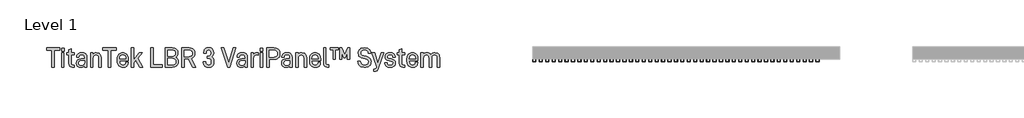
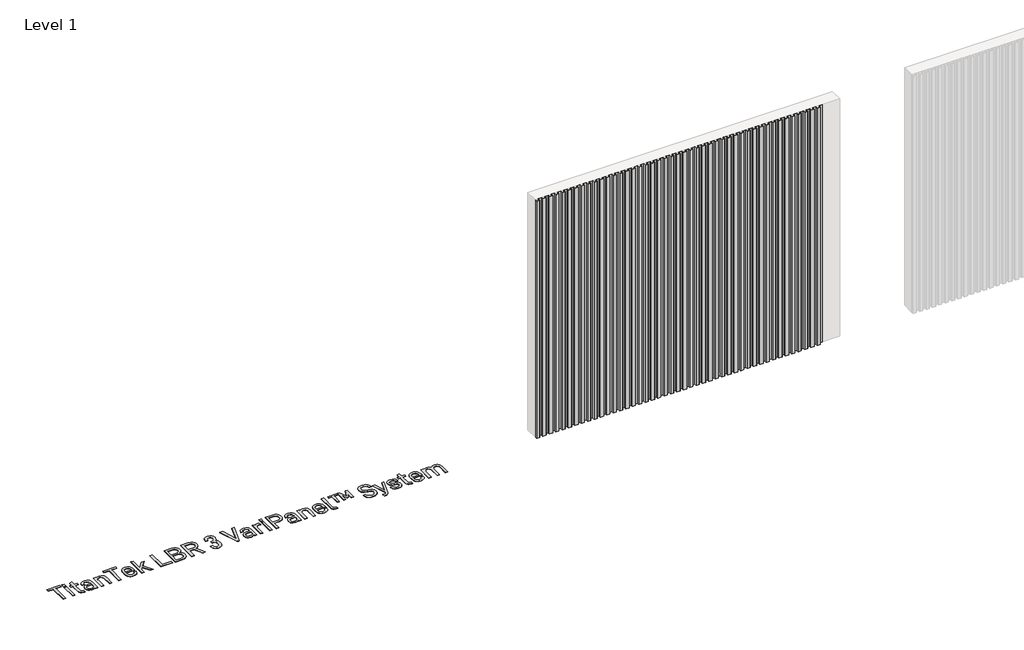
# One storey, part 26 of 33: 2 proxies.
"""IFC4 building model written with IfcOpenShell, lengths in millimetres."""

from ifc_helpers import new_model, si_unit, origin, origin_with_axes, place, context, project, spatial, polyline, outline, extrude, transform, mapped, element, save
from components import aluminum_slate_gray_25c6ed16

model = new_model("IFC4")

# Units and contexts
model_context = context("Model", 3, world=origin())
ifc_project = project(units=[si_unit("LENGTHUNIT", "METRE", prefix="MILLI")], contexts=[model_context])

# Site, building, storey
site = spatial("IfcSite", under=ifc_project)
building = spatial("IfcBuilding", under=site)
storey = spatial("IfcBuildingStorey", under=building, Name="Level 1", Elevation=0.0)

# Proxies
placement = place(None, origin())
element("IfcBuildingElementProxy", 1, Name="600mm Arial 2", ObjectType="600mm Arial 2", at=placement, inside=storey, context=model_context, shape_type="SweptSolid", body=[
    extrude(outline(polyline([(-9914.9924556, 92220.4128343), (-9914.9924556, 91952.9873502), (-9954.4439015, 91952.9873502), (-9954.4439015, 92220.4128343), (-10038.8787304, 92220.4128343), (-10038.8787304, 92257.3166776), (-9830.5576267, 92257.3166776), (-9830.5576267, 92220.4128343), (-9914.9924556, 92220.4128343)])), origin_with_axes(), (0.0, 0.0, 1.0), 5.0),
    extrude(outline(polyline([(-9763.1553408, 92253.0221475), (-9763.1553408, 92205.8551051), (-9802.6067867, 92205.8551051), (-9802.6067867, 92253.0221475), (-9763.1553408, 92253.0221475)])), origin_with_axes(), (0.0, 0.0, 1.0), 5.0),
    extrude(outline(polyline([(-9764.0288046, 92178.8505176), (-9764.0288046, 91952.9873502), (-9801.733323, 91952.9873502), (-9801.733323, 92178.8505176), (-9764.0288046, 92178.8505176)])), origin_with_axes(), (0.0, 0.0, 1.0), 5.0),
    extrude(outline(polyline([(-9648.294858, 92012.601251), (-9646.8208879, 92001.5191797), (-9642.3989777, 91993.6034145), (-9635.0291273, 91988.8539554), (-9624.7113368, 91987.2708023), (-9603.2386864, 91987.2708023), (-9603.2386864, 91952.9873502), (-9629.3698101, 91952.9873502), (-9653.1535001, 91956.9543314), (-9671.3688587, 91968.855275), (-9682.6692959, 91987.3981825), (-9686.4361083, 92011.2910554), (-9686.4361083, 92147.1146681), (-9720.2828285, 92147.1146681), (-9720.2828285, 92178.8505176), (-9686.4361083, 92178.8505176), (-9686.4361083, 92226.8910237), (-9648.294858, 92244.8698192), (-9648.294858, 92178.8505176), (-9599.3808881, 92178.8505176), (-9599.3808881, 92147.1146681), (-9648.294858, 92147.1146681), (-9648.294858, 92012.601251)])), origin_with_axes(), (0.0, 0.0, 1.0), 5.0),
    extrude(outline(polyline([(-9422.8684225, 92162.1091291), (-9413.2830677, 92151.3409589), (-9406.4363858, 92138.2526505), (-9400.9590402, 92105.1156196), (-9400.9590402, 91952.9873502), (-9438.2996154, 91952.9873502), (-9438.2996154, 91969.2920069), (-9456.7151427, 91956.8451485), (-9473.7476858, 91952.0410978), (-9493.9829293, 91950.4397476), (-9526.0281305, 91954.7160806), (-9550.1029751, 91967.5450794), (-9565.2248162, 91989.3270816), (-9570.2654299, 92018.5699199), (-9565.1338304, 92046.2114081), (-9549.7390318, 92067.4111012), (-9525.063681, 92080.6222403), (-9493.1094655, 92085.0259534), (-9438.7363472, 92085.0259534), (-9438.7363472, 92105.5523515), (-9441.6296959, 92124.441005), (-9450.3097419, 92138.1616647), (-9464.2305704, 92146.1866129), (-9483.7197302, 92148.8615956), (-9502.2262434, 92146.6051476), (-9515.819523, 92139.8358036), (-9524.1720201, 92129.4816187), (-9526.9561857, 92115.4516073), (-9526.9561857, 92109.8468816), (-9563.8600291, 92109.8468816), (-9563.8600291, 92116.2522824), (-9558.4008807, 92143.2932642), (-9542.0234354, 92164.2927885), (-9516.8203668, 92177.4493362), (-9484.1564621, 92181.8348521), (-9448.6719974, 92176.9034213), (-9434.5600987, 92170.7391329), (-9422.8684225, 92162.1091291)]), holes=[polyline([(-9450.6736851, 91994.5496669), (-9441.7206817, 92009.4531421), (-9438.7363472, 92031.0167784), (-9438.7363472, 92054.9642428), (-9488.8149354, 92054.9642428), (-9507.9538, 92052.7168933), (-9521.6244175, 92045.974845), (-9529.826788, 92034.7380979), (-9532.5609115, 92019.0066518), (-9529.8540837, 92003.0522906), (-9521.7336004, 91991.6563182), (-9508.1994616, 91984.8187348), (-9489.2516673, 91982.5395404), (-9466.104878, 91985.542072), (-9450.6736851, 91994.5496669)])]), origin_with_axes(), (0.0, 0.0, 1.0), 5.0),
    extrude(outline(polyline([(-9306.6977441, 92178.8505176), (-9306.6977441, 92160.4349903), (-9288.2822167, 92173.6825238), (-9271.1222935, 92179.4692211), (-9252.2518372, 92181.3981202), (-9219.9154813, 92175.9389718), (-9206.7907787, 92169.1150363), (-9195.6950595, 92159.5615265), (-9187.0650557, 92147.9790333), (-9180.9007673, 92134.1946835), (-9175.9693365, 92100.0204144), (-9175.9693365, 91952.9873502), (-9213.673855, 91952.9873502), (-9213.673855, 92095.7258843), (-9216.6763866, 92118.1083928), (-9225.6839815, 92133.8671346), (-9240.3781893, 92143.4752358), (-9259.567096, 92146.6779363), (-9278.7378056, 92143.4752358), (-9293.3774219, 92133.8671346), (-9303.0401146, 92117.453295), (-9306.2610122, 92095.7258843), (-9306.2610122, 91952.9873502), (-9343.9655306, 91952.9873502), (-9343.9655306, 92178.8505176), (-9306.6977441, 92178.8505176)])), origin_with_axes(), (0.0, 0.0, 1.0), 5.0),
    extrude(outline(polyline([(-9025.2240514, 92220.4128343), (-9025.2240514, 91952.9873502), (-9064.6754974, 91952.9873502), (-9064.6754974, 92220.4128343), (-9149.1103263, 92220.4128343), (-9149.1103263, 92257.3166776), (-8940.7892225, 92257.3166776), (-8940.7892225, 92220.4128343), (-9025.2240514, 92220.4128343)])), origin_with_axes(), (0.0, 0.0, 1.0), 5.0),
    extrude(outline(polyline([(-8884.5235994, 92047.2486463), (-8881.1025331, 92017.8329349), (-8870.8393341, 91998.8805913), (-8854.3527058, 91988.5900965), (-8832.2613519, 91985.1599316), (-8812.990558, 91987.7257314), (-8798.8513635, 91995.4231306), (-8790.1713175, 92007.1966941), (-8787.2779689, 92022.86445), (-8787.2779689, 92028.3963871), (-8750.3741256, 92028.3963871), (-8750.3741256, 92021.9909863), (-8756.0516399, 91992.8391337), (-8763.1485329, 91980.528754), (-8773.084183, 91969.7287387), (-8799.7976159, 91955.2619954), (-8834.3722226, 91950.4397476), (-8853.3222916, 91951.9387388), (-8870.2843206, 91956.4357123), (-8885.2583098, 91963.9306682), (-8898.2442591, 91974.4236064), (-8908.7371973, 91988.0237099), (-8916.2321532, 92004.8401617), (-8920.7291267, 92024.8729617), (-8922.2281179, 92048.1221101), (-8922.2281179, 92085.8266285), (-8920.7314014, 92108.5321367), (-8916.2412518, 92128.1714231), (-8908.7576691, 92144.7444879), (-8898.2806535, 92158.2513309), (-8885.4971476, 92168.5691214), (-8870.7301511, 92175.9389718), (-8853.979664, 92180.360882), (-8835.2456864, 92181.8348521), (-8816.8438069, 92180.360882), (-8800.2161506, 92175.9389718), (-8785.3627176, 92168.5691214), (-8772.2835079, 92158.2513309), (-8761.9657174, 92144.9082623), (-8754.595867, 92128.389789), (-8750.1739568, 92108.6959111), (-8748.6999867, 92085.8266285), (-8748.6999867, 92055.8377065), (-8884.5235994, 92055.8377065), (-8884.5235994, 92047.2486463)]), holes=[polyline([(-8871.2760659, 92133.4304027), (-8881.2117161, 92115.30603), (-8884.5235994, 92086.7000923), (-8786.4045051, 92086.2633604), (-8786.4045051, 92089.6844267), (-8789.6254027, 92116.9255774), (-8799.2880954, 92134.3038665), (-8814.9012599, 92143.5844188), (-8835.2456864, 92146.6779363), (-8855.60831, 92143.3660529), (-8871.2760659, 92133.4304027)])]), origin_with_axes(), (0.0, 0.0, 1.0), 5.0),
    extrude(outline(polyline([(-8663.391694, 92020.3168474), (-8663.391694, 91952.9873502), (-8701.0962125, 91952.9873502), (-8701.0962125, 92257.3166776), (-8663.391694, 92257.3166776), (-8663.391694, 92070.8321675), (-8575.0990669, 92178.8505176), (-8528.3687564, 92178.8505176), (-8602.5403863, 92091.8680861), (-8517.6688255, 91952.9873502), (-8563.5256722, 91952.9873502), (-8627.7980463, 92062.6798392), (-8663.391694, 92020.3168474)])), origin_with_axes(), (0.0, 0.0, 1.0), 5.0),
    extrude(outline(polyline([(-8356.2963981, 92257.3166776), (-8356.2963981, 91989.8184049), (-8208.8993907, 91989.8184049), (-8208.8993907, 91952.9873502), (-8396.1845759, 91952.9873502), (-8396.1845759, 92257.3166776), (-8356.2963981, 92257.3166776)])), origin_with_axes(), (0.0, 0.0, 1.0), 5.0),
    extrude(outline(polyline([(-7972.0451379, 92085.8266285), (-7962.0548962, 92064.117415), (-7958.7248157, 92038.2956429), (-7960.3056941, 92019.4251865), (-7965.0483293, 92002.7019952), (-7972.9527213, 91988.1260689), (-7984.0188701, 91975.6974077), (-7997.7918466, 91965.7617575), (-8013.8167219, 91958.6648646), (-8052.6221686, 91952.9873502), (-8167.9193832, 91952.9873502), (-8167.9193832, 92257.3166776), (-8055.1697712, 92257.3166776), (-8016.7373663, 92251.948515), (-8001.1242018, 92245.2383117), (-7987.9130626, 92235.8440271), (-7977.2131317, 92223.8520978), (-7969.5703239, 92209.7129034), (-7964.9846392, 92193.4264439), (-7963.4560777, 92174.9927194), (-7966.6769752, 92152.1552818), (-7976.3396679, 92131.6834753), (-7987.7856825, 92118.6179134), (-8001.597328, 92109.4101497), (-7984.7831508, 92099.2197393), (-7972.0451379, 92085.8266285)]), holes=[polyline([(-8013.6074545, 92002.7019952), (-8002.3616088, 92018.351554), (-7998.6129935, 92040.4065136), (-8002.2524258, 92062.0793329), (-8013.1707226, 92077.310357), (-8031.1677153, 92086.9184582), (-8056.0432349, 92090.1211586), (-8128.0312054, 92090.1211586), (-8128.0312054, 91989.4544617), (-8056.4799668, 91989.4544617), (-8031.6044471, 91992.7663451), (-8013.6074545, 92002.7019952)]), polyline([(-8128.0312054, 92126.5882701), (-8058.5908375, 92126.5882701), (-8035.2438794, 92129.4816187), (-8017.4652527, 92138.1616647), (-8006.8745048, 92152.737591), (-8003.3442555, 92173.3185806), (-8006.7653218, 92193.77219), (-8017.0285209, 92208.8394396), (-8034.2066412, 92217.8470345), (-8058.2268943, 92220.8495661), (-8128.0312054, 92220.8495661), (-8128.0312054, 92126.5882701)])]), origin_with_axes(), (0.0, 0.0, 1.0), 5.0),
    extrude(outline(polyline([(-7862.4982262, 92082.842294), (-7862.4982262, 91952.9873502), (-7902.386404, 91952.9873502), (-7902.386404, 92257.3166776), (-7788.3993849, 92257.3166776), (-7749.9123886, 92251.6391632), (-7733.9580273, 92244.5422703), (-7720.196424, 92234.6066202), (-7709.1461977, 92221.8777058), (-7701.253179, 92206.8377519), (-7696.5173677, 92189.4867585), (-7694.938764, 92169.8247256), (-7699.3242799, 92139.8540007), (-7712.4808275, 92115.0148754), (-7731.5696499, 92097.9641352), (-7756.2268036, 92087.1368241), (-7685.5490287, 91952.9873502), (-7731.4058754, 91952.9873502), (-7798.2258521, 92082.842294), (-7862.4982262, 92082.842294)]), holes=[polyline([(-7790.9469875, 92118.4359417), (-7766.6173827, 92121.7478251), (-7749.3846709, 92131.6834753), (-7738.466374, 92147.5695972), (-7734.8269418, 92169.4607823), (-7738.3571911, 92191.6158263), (-7748.947939, 92207.5656383), (-7766.5081998, 92217.2010353), (-7790.9469875, 92220.4128343), (-7862.4982262, 92220.4128343), (-7862.4982262, 92118.4359417), (-7790.9469875, 92118.4359417)])]), origin_with_axes(), (0.0, 0.0, 1.0), 5.0),
    extrude(outline(polyline([(-7538.8799077, 91968.855275), (-7548.6244877, 91980.1466136), (-7555.5849019, 91993.0574997), (-7561.1532333, 92023.7379138), (-7561.1532333, 92034.8745766), (-7521.2650555, 92034.8745766), (-7521.2650555, 92024.9753208), (-7518.4808898, 92008.2703266), (-7510.1283927, 91995.8598625), (-7496.7352819, 91987.8349143), (-7478.8292751, 91985.1599316), (-7460.213579, 91988.253449), (-7446.2927505, 91997.5340014), (-7437.6127045, 92012.6558425), (-7434.7193558, 92032.2541853), (-7434.7193558, 92043.3908481), (-7437.8310704, 92063.5715001), (-7447.1662142, 92079.4212277), (-7461.5965632, 92089.0839204), (-7481.0129345, 92092.304818), (-7500.7386574, 92092.304818), (-7500.7386574, 92129.1358727), (-7481.4496663, 92129.1358727), (-7464.0895743, 92132.1384043), (-7450.5872806, 92141.1459992), (-7442.2347835, 92155.5035595), (-7439.4506178, 92173.6825238), (-7439.4506178, 92182.271584), (-7442.1256005, 92200.1775908), (-7450.1505487, 92213.5707016), (-7463.1069276, 92222.2507476), (-7479.7027388, 92225.1440962), (-7496.407733, 92222.4691135), (-7508.8181971, 92214.4441653), (-7516.5701878, 92201.5787722), (-7519.1541848, 92185.2559184), (-7519.1541848, 92174.1192557), (-7557.7321669, 92174.1192557), (-7557.7321669, 92186.1293822), (-7552.3640043, 92216.9917679), (-7545.6538011, 92229.857161), (-7536.2595165, 92241.012021), (-7524.9727271, 92249.9923201), (-7511.6387571, 92256.4068195), (-7478.8292751, 92261.5384191), (-7446.2745533, 92256.2976366), (-7432.8768932, 92249.7466585), (-7421.3990337, 92240.5752891), (-7412.0365941, 92229.0155423), (-7405.3491373, 92215.7361638), (-7399.9991719, 92184.0185115), (-7399.9991719, 92174.5559875), (-7402.7833376, 92153.1379286), (-7411.1358347, 92135.1773302), (-7420.7985274, 92123.0398236), (-7431.7350214, 92114.1414117), (-7417.6868128, 92104.2785502), (-7406.4045727, 92090.1211586), (-7397.7245267, 92069.0124514), (-7394.831178, 92044.2643119), (-7394.831178, 92034.0011128), (-7400.6178754, 91999.3901118), (-7407.851247, 91984.7322983), (-7417.9779673, 91971.8396095), (-7430.6522903, 91961.7128891), (-7445.0917378, 91954.4795175), (-7479.266007, 91948.6928201), (-7512.5850095, 91953.7334339), (-7538.8799077, 91968.855275)])), origin_with_axes(), (0.0, 0.0, 1.0), 5.0),
    extrude(outline(polyline([(-7089.9195415, 92257.3166776), (-7048.3572248, 92257.3166776), (-7147.7865148, 91952.9873502), (-7179.5223643, 91952.9873502), (-7278.5149223, 92257.3166776), (-7236.9526057, 92257.3166776), (-7163.2177076, 92022.86445), (-7089.9195415, 92257.3166776)])), origin_with_axes(), (0.0, 0.0, 1.0), 5.0),
    extrude(outline(polyline([(-6888.6589363, 92162.1091291), (-6879.0735816, 92151.3409589), (-6872.2268996, 92138.2526505), (-6866.749554, 92105.1156196), (-6866.749554, 91952.9873502), (-6904.0901292, 91952.9873502), (-6904.0901292, 91969.2920069), (-6922.5056566, 91956.8451485), (-6939.5381996, 91952.0410978), (-6959.7734431, 91950.4397476), (-6991.8186444, 91954.7160806), (-7015.8934889, 91967.5450794), (-7031.01533, 91989.3270816), (-7036.0559437, 92018.5699199), (-7030.9243442, 92046.2114081), (-7015.5295457, 92067.4111012), (-6990.8541948, 92080.6222403), (-6958.8999794, 92085.0259534), (-6904.5268611, 92085.0259534), (-6904.5268611, 92105.5523515), (-6907.4202097, 92124.441005), (-6916.1002557, 92138.1616647), (-6930.0210842, 92146.1866129), (-6949.5102441, 92148.8615956), (-6968.0167572, 92146.6051476), (-6981.6100368, 92139.8358036), (-6989.9625339, 92129.4816187), (-6992.7466996, 92115.4516073), (-6992.7466996, 92109.8468816), (-7029.6505429, 92109.8468816), (-7029.6505429, 92116.2522824), (-7024.1913945, 92143.2932642), (-7007.8139492, 92164.2927885), (-6982.6108807, 92177.4493362), (-6949.946976, 92181.8348521), (-6914.4625112, 92176.9034213), (-6900.3506125, 92170.7391329), (-6888.6589363, 92162.1091291)]), holes=[polyline([(-6916.464199, 91994.5496669), (-6907.5111956, 92009.4531421), (-6904.5268611, 92031.0167784), (-6904.5268611, 92054.9642428), (-6954.6054493, 92054.9642428), (-6973.7443138, 92052.7168933), (-6987.4149313, 92045.974845), (-6995.6173018, 92034.7380979), (-6998.3514253, 92019.0066518), (-6995.6445975, 92003.0522906), (-6987.5241143, 91991.6563182), (-6973.9899755, 91984.8187348), (-6955.0421811, 91982.5395404), (-6931.8953918, 91985.542072), (-6916.464199, 91994.5496669)])]), origin_with_axes(), (0.0, 0.0, 1.0), 5.0),
    extrude(outline(polyline([(-6719.7892785, 92181.8348521), (-6699.6268236, 92179.7239814), (-6699.6268236, 92140.7092673), (-6726.1946793, 92146.313993), (-6744.5283194, 92142.7746451), (-6759.2043301, 92132.1566015), (-6768.8397271, 92115.7518604), (-6772.051526, 92094.8524206), (-6772.051526, 91952.9873502), (-6809.7560445, 91952.9873502), (-6809.7560445, 92178.8505176), (-6772.4882579, 92178.8505176), (-6772.4882579, 92159.1247947), (-6754.9461943, 92173.3185806), (-6738.8417065, 92179.7057842), (-6719.7892785, 92181.8348521)])), origin_with_axes(), (0.0, 0.0, 1.0), 5.0),
    extrude(outline(polyline([(-6623.344323, 92253.0221475), (-6623.344323, 92205.8551051), (-6662.795769, 92205.8551051), (-6662.795769, 92253.0221475), (-6623.344323, 92253.0221475)])), origin_with_axes(), (0.0, 0.0, 1.0), 5.0),
    extrude(outline(polyline([(-6624.2177868, 92178.8505176), (-6624.2177868, 91952.9873502), (-6661.9223052, 91952.9873502), (-6661.9223052, 92178.8505176), (-6624.2177868, 92178.8505176)])), origin_with_axes(), (0.0, 0.0, 1.0), 5.0),
    extrude(outline(polyline([(-6378.9928397, 92233.2964245), (-6367.560473, 92219.8396237), (-6359.3944968, 92203.926206), (-6354.4949111, 92185.5561716), (-6352.8617159, 92164.7295204), (-6354.5222069, 92145.044741), (-6359.5036798, 92127.5527196), (-6367.8061347, 92112.2534562), (-6379.4295715, 92099.1469507), (-6393.4868787, 92088.6380899), (-6409.9644084, 92081.1317609), (-6428.8621605, 92076.6279634), (-6450.1801351, 92075.1266976), (-6520.85791, 92075.1266976), (-6520.85791, 91952.9873502), (-6560.7460878, 91952.9873502), (-6560.7460878, 92257.3166776), (-6450.1801351, 92257.3166776), (-6428.9986392, 92255.8154118), (-6410.0735913, 92251.3116143), (-6393.4049915, 92243.8052853), (-6378.9928397, 92233.2964245)]), holes=[polyline([(-6407.7443547, 92125.2780744), (-6396.4985089, 92141.5827311), (-6392.7498937, 92164.7295204), (-6396.6076919, 92189.3502798), (-6408.1810865, 92206.7285689), (-6427.2517117, 92216.9917679), (-6452.7277377, 92220.4128343), (-6520.85791, 92220.4128343), (-6520.85791, 92112.0305409), (-6452.7277377, 92112.0305409), (-6426.4874309, 92115.3424243), (-6407.7443547, 92125.2780744)])]), origin_with_axes(), (0.0, 0.0, 1.0), 5.0),
    extrude(outline(polyline([(-6180.5709917, 92162.1091291), (-6170.9856369, 92151.3409589), (-6164.1389549, 92138.2526505), (-6158.6616093, 92105.1156196), (-6158.6616093, 91952.9873502), (-6196.0021845, 91952.9873502), (-6196.0021845, 91969.2920069), (-6214.4177119, 91956.8451485), (-6231.450255, 91952.0410978), (-6251.6854985, 91950.4397476), (-6283.7306997, 91954.7160806), (-6307.8055442, 91967.5450794), (-6322.9273854, 91989.3270816), (-6327.9679991, 92018.5699199), (-6322.8363996, 92046.2114081), (-6307.441601, 92067.4111012), (-6282.7662501, 92080.6222403), (-6250.8120347, 92085.0259534), (-6196.4389164, 92085.0259534), (-6196.4389164, 92105.5523515), (-6199.3322651, 92124.441005), (-6208.0123111, 92138.1616647), (-6221.9331396, 92146.1866129), (-6241.4222994, 92148.8615956), (-6259.9288126, 92146.6051476), (-6273.5220921, 92139.8358036), (-6281.8745892, 92129.4816187), (-6284.6587549, 92115.4516073), (-6284.6587549, 92109.8468816), (-6321.5625983, 92109.8468816), (-6321.5625983, 92116.2522824), (-6316.1034498, 92143.2932642), (-6299.7260046, 92164.2927885), (-6274.522936, 92177.4493362), (-6241.8590313, 92181.8348521), (-6206.3745665, 92176.9034213), (-6192.2626679, 92170.7391329), (-6180.5709917, 92162.1091291)]), holes=[polyline([(-6208.3762543, 91994.5496669), (-6199.4232509, 92009.4531421), (-6196.4389164, 92031.0167784), (-6196.4389164, 92054.9642428), (-6246.5175046, 92054.9642428), (-6265.6563691, 92052.7168933), (-6279.3269866, 92045.974845), (-6287.5293571, 92034.7380979), (-6290.2634806, 92019.0066518), (-6287.5566529, 92003.0522906), (-6279.4361696, 91991.6563182), (-6265.9020308, 91984.8187348), (-6246.9542365, 91982.5395404), (-6223.8074472, 91985.542072), (-6208.3762543, 91994.5496669)])]), origin_with_axes(), (0.0, 0.0, 1.0), 5.0),
    extrude(outline(polyline([(-6064.4003133, 92178.8505176), (-6064.4003133, 92160.4349903), (-6045.9847859, 92173.6825238), (-6028.8248627, 92179.4692211), (-6009.9544063, 92181.3981202), (-5977.6180505, 92175.9389718), (-5964.4933478, 92169.1150363), (-5953.3976287, 92159.5615265), (-5944.7676249, 92147.9790333), (-5938.6033364, 92134.1946835), (-5933.6719057, 92100.0204144), (-5933.6719057, 91952.9873502), (-5971.3764241, 91952.9873502), (-5971.3764241, 92095.7258843), (-5974.3789558, 92118.1083928), (-5983.3865507, 92133.8671346), (-5998.0807585, 92143.4752358), (-6017.2696652, 92146.6779363), (-6036.4403747, 92143.4752358), (-6051.0799911, 92133.8671346), (-6060.7426838, 92117.453295), (-6063.9635814, 92095.7258843), (-6063.9635814, 91952.9873502), (-6101.6680998, 91952.9873502), (-6101.6680998, 92178.8505176), (-6064.4003133, 92178.8505176)])), origin_with_axes(), (0.0, 0.0, 1.0), 5.0),
    extrude(outline(polyline([(-5847.1989947, 92047.2486463), (-5843.7779284, 92017.8329349), (-5833.5147293, 91998.8805913), (-5817.0281011, 91988.5900965), (-5794.9367471, 91985.1599316), (-5775.6659532, 91987.7257314), (-5761.5267588, 91995.4231306), (-5752.8467128, 92007.1966941), (-5749.9533641, 92022.86445), (-5749.9533641, 92028.3963871), (-5713.0495208, 92028.3963871), (-5713.0495208, 92021.9909863), (-5718.7270352, 91992.8391337), (-5725.8239281, 91980.528754), (-5735.7595782, 91969.7287387), (-5762.4730112, 91955.2619954), (-5797.0476179, 91950.4397476), (-5815.9976868, 91951.9387388), (-5832.9597159, 91956.4357123), (-5847.9337051, 91963.9306682), (-5860.9196544, 91974.4236064), (-5871.4125926, 91988.0237099), (-5878.9075485, 92004.8401617), (-5883.404522, 92024.8729617), (-5884.9035131, 92048.1221101), (-5884.9035131, 92085.8266285), (-5883.4067966, 92108.5321367), (-5878.916647, 92128.1714231), (-5871.4330644, 92144.7444879), (-5860.9560487, 92158.2513309), (-5848.1725428, 92168.5691214), (-5833.4055464, 92175.9389718), (-5816.6550593, 92180.360882), (-5797.9210816, 92181.8348521), (-5779.5192021, 92180.360882), (-5762.8915459, 92175.9389718), (-5748.0381129, 92168.5691214), (-5734.9589031, 92158.2513309), (-5724.6411126, 92144.9082623), (-5717.2712623, 92128.389789), (-5712.849352, 92108.6959111), (-5711.375382, 92085.8266285), (-5711.375382, 92055.8377065), (-5847.1989947, 92055.8377065), (-5847.1989947, 92047.2486463)]), holes=[polyline([(-5833.9514612, 92133.4304027), (-5843.8871113, 92115.30603), (-5847.1989947, 92086.7000923), (-5749.0799004, 92086.2633604), (-5749.0799004, 92089.6844267), (-5752.300798, 92116.9255774), (-5761.9634907, 92134.3038665), (-5777.5766552, 92143.5844188), (-5797.9210816, 92146.6779363), (-5818.2837052, 92143.3660529), (-5833.9514612, 92133.4304027)])]), origin_with_axes(), (0.0, 0.0, 1.0), 5.0),
    extrude(outline(polyline([(-5648.7771467, 91968.855275), (-5660.0229925, 91988.362632), (-5663.7716077, 92014.2753899), (-5663.7716077, 92257.3166776), (-5626.0670893, 92257.3166776), (-5626.0670893, 92016.0223174), (-5624.684105, 92002.6110094), (-5620.5351522, 91994.112935), (-5613.5474422, 91989.6364333), (-5602.9203, 91988.1442661), (-5581.0837063, 91988.1442661), (-5581.0837063, 91952.9873502), (-5605.9046344, 91952.9873502), (-5630.7801541, 91956.9543314), (-5648.7771467, 91968.855275)])), origin_with_axes(), (0.0, 0.0, 1.0), 5.0),
    extrude(outline(polyline([(-5284.6155526, 92257.3166776), (-5254.1898988, 92257.3166776), (-5254.1898988, 92079.8579596), (-5286.7264234, 92079.8579596), (-5286.7264234, 92178.4137857), (-5319.7724685, 92104.6788877), (-5343.3559897, 92104.6788877), (-5376.765978, 92178.4137857), (-5376.765978, 92079.8579596), (-5409.3025026, 92079.8579596), (-5409.3025026, 92257.3166776), (-5378.8768487, 92257.3166776), (-5331.3458631, 92149.7350594), (-5284.6155526, 92257.3166776)])), origin_with_axes(), (0.0, 0.0, 1.0), 5.0),
    extrude(outline(polyline([(-5562.3042357, 92226.01756), (-5562.3042357, 92257.3166776), (-5430.3384212, 92257.3166776), (-5430.3384212, 92226.01756), (-5479.1796024, 92226.01756), (-5479.1796024, 92079.8579596), (-5513.0263226, 92079.8579596), (-5513.0263226, 92226.01756), (-5562.3042357, 92226.01756)])), origin_with_axes(), (0.0, 0.0, 1.0), 5.0),
    extrude(outline(polyline([(-5092.3807395, 91973.1498051), (-5104.5682884, 91986.7931268), (-5113.7624042, 92003.3388959), (-5119.9630869, 92022.7871121), (-5123.1703366, 92045.1377756), (-5083.7916794, 92045.1377756), (-5078.1915029, 92019.4388344), (-5065.2487719, 92001.0824478), (-5044.9634862, 91990.0686159), (-5017.3356459, 91986.3973386), (-4989.2938202, 91989.7274191), (-4969.3679284, 91999.7176607), (-4957.4669849, 92015.5855855), (-4953.5000037, 92037.4221792), (-4956.6117183, 92057.020522), (-4965.9468621, 92071.2688994), (-4982.1969272, 92081.0225779), (-5005.3255194, 92087.1368241), (-5038.8082964, 92092.7415498), (-5071.5813841, 92102.3678482), (-5096.2385378, 92118.4359417), (-5105.2188369, 92129.313295), (-5111.6333363, 92142.2196317), (-5116.7649358, 92174.1192557), (-5115.0225576, 92193.5902184), (-5109.795423, 92210.8047331), (-5101.083532, 92225.7627997), (-5088.8868846, 92238.4644184), (-5074.1517331, 92248.4000685), (-5057.3148095, 92255.4969615), (-5017.3356459, 92261.1744758), (-4980.1770423, 92255.8063132), (-4964.2454275, 92249.0961099), (-4950.0789373, 92239.7018254), (-4937.6411775, 92226.8455308), (-4928.2059493, 92210.9867047), (-4921.7732528, 92192.1253469), (-4918.3430878, 92170.2614574), (-4957.7945338, 92170.2614574), (-4962.6622745, 92194.4636821), (-4974.281162, 92211.7509854), (-4992.6511965, 92222.1233674), (-5017.7723778, 92225.5808281), (-5043.6851356, 92222.2507476), (-5062.3190289, 92212.260506), (-5073.8924236, 92196.6473415), (-5077.7502218, 92176.302915), (-5074.8568731, 92158.5060912), (-5066.1768271, 92145.4405293), (-5050.7456342, 92135.9052167), (-5028.4723087, 92129.5726045), (-4994.1888566, 92123.6039356), (-4960.1237704, 92113.613694), (-4935.0844763, 92096.5993481), (-4925.881262, 92085.285263), (-4919.3075374, 92071.9421944), (-4914.0485578, 92039.1691067), (-4915.8455274, 92019.1567784), (-4921.2364365, 92001.555574), (-4930.221285, 91986.3654935), (-4942.8000728, 91973.586537), (-4958.1857727, 91963.4598166), (-4976.1008782, 91956.226445), (-4996.545389, 91951.886422), (-5019.5193053, 91950.4397476), (-5060.4447213, 91956.117262), (-5077.5364051, 91963.2141549), (-5092.3807395, 91973.1498051)])), origin_with_axes(), (0.0, 0.0, 1.0), 5.0),
    extrude(outline(polyline([(-4751.0019915, 92178.8505176), (-4711.5505456, 92178.8505176), (-4797.2955702, 91932.3881635), (-4806.8308827, 91912.5714548), (-4820.0056276, 91898.5414433), (-4836.8198047, 91890.5164951), (-4858.1468779, 91887.8415124), (-4875.2522096, 91887.8415124), (-4875.2522096, 91922.9984282), (-4860.2577486, 91922.9984282), (-4847.5197357, 91924.3996097), (-4839.2946187, 91928.603154), (-4832.8710207, 91935.6454554), (-4827.2844922, 91947.4554132), (-4823.8634258, 91959.3927511), (-4899.7091946, 92178.8505176), (-4859.0203417, 92178.8505176), (-4805.0111666, 92014.7121217), (-4751.0019915, 92178.8505176)])), origin_with_axes(), (0.0, 0.0, 1.0), 5.0),
    extrude(outline(polyline([(-4674.3555477, 91968.4185431), (-4684.482268, 91978.5953056), (-4691.7156397, 91990.273334), (-4697.502337, 92018.1331881), (-4697.502337, 92024.1746457), (-4660.6712823, 92024.1746457), (-4660.6712823, 92018.5699199), (-4657.5595677, 92004.3215426), (-4648.2244239, 91993.3122599), (-4633.1025828, 91986.215367), (-4613.50424, 91983.849736), (-4592.9414476, 91986.106184), (-4577.546649, 91992.875528), (-4568.5390541, 92003.5572618), (-4565.5365225, 92017.6964562), (-4567.5746046, 92029.9431458), (-4573.6888508, 92038.2956429), (-4585.0074852, 92044.391692), (-4602.8043091, 92048.9955738), (-4629.8088966, 92053.7268358), (-4658.3966371, 92061.751784), (-4678.2133459, 92073.8892906), (-4690.1142895, 92091.3403684), (-4694.0812707, 92115.4516073), (-4688.4037563, 92142.7655466), (-4681.3068634, 92154.0887302), (-4671.3712132, 92163.8560566), (-4646.204539, 92177.3401532), (-4614.3777037, 92181.8348521), (-4580.3126176, 92177.4493362), (-4554.3998597, 92164.2927885), (-4537.0397677, 92143.9119677), (-4531.2530704, 92117.9992099), (-4531.2530704, 92111.1570772), (-4568.0841251, 92111.1570772), (-4568.0841251, 92116.6890143), (-4570.9774738, 92129.9001534), (-4579.6575197, 92140.2725354), (-4594.342629, 92147.0418795), (-4613.50424, 92149.2983275), (-4632.5748651, 92147.0418795), (-4646.1135532, 92140.2725354), (-4654.4660503, 92130.300491), (-4657.250216, 92116.6890143), (-4655.3213169, 92105.7889146), (-4649.5346195, 92097.836755), (-4639.0348574, 92091.631523), (-4622.9667639, 92087.573556), (-4594.6519807, 92082.4055622), (-4565.6275083, 92074.0712622), (-4545.3740677, 92061.8791641), (-4532.8180263, 92043.9549601), (-4528.6326792, 92019.4433837), (-4530.133945, 92003.8620642), (-4534.6377424, 91990.164151), (-4542.1440715, 91978.3496439), (-4552.6529322, 91968.4185431), (-4579.9850686, 91954.9344465), (-4614.8144356, 91950.4397476), (-4648.115241, 91954.9344465), (-4674.3555477, 91968.4185431)])), origin_with_axes(), (0.0, 0.0, 1.0), 5.0),
    extrude(outline(polyline([(-4430.8047394, 92012.601251), (-4429.3307694, 92001.5191797), (-4424.9088591, 91993.6034145), (-4417.5390088, 91988.8539554), (-4407.2212183, 91987.2708023), (-4385.7485678, 91987.2708023), (-4385.7485678, 91952.9873502), (-4411.8796916, 91952.9873502), (-4435.6633815, 91956.9543314), (-4453.8787401, 91968.855275), (-4465.1791773, 91987.3981825), (-4468.9459897, 92011.2910554), (-4468.9459897, 92147.1146681), (-4502.79271, 92147.1146681), (-4502.79271, 92178.8505176), (-4468.9459897, 92178.8505176), (-4468.9459897, 92226.8910237), (-4430.8047394, 92244.8698192), (-4430.8047394, 92178.8505176), (-4381.8907696, 92178.8505176), (-4381.8907696, 92147.1146681), (-4430.8047394, 92147.1146681), (-4430.8047394, 92012.601251)])), origin_with_axes(), (0.0, 0.0, 1.0), 5.0),
    extrude(outline(polyline([(-4309.902799, 92047.2486463), (-4306.4817327, 92017.8329349), (-4296.2185337, 91998.8805913), (-4279.7319054, 91988.5900965), (-4257.6405515, 91985.1599316), (-4238.3697576, 91987.7257314), (-4224.2305631, 91995.4231306), (-4215.5505172, 92007.1966941), (-4212.6571685, 92022.86445), (-4212.6571685, 92028.3963871), (-4175.7533252, 92028.3963871), (-4175.7533252, 92021.9909863), (-4181.4308395, 91992.8391337), (-4188.5277325, 91980.528754), (-4198.4633826, 91969.7287387), (-4225.1768155, 91955.2619954), (-4259.7514222, 91950.4397476), (-4278.7014912, 91951.9387388), (-4295.6635202, 91956.4357123), (-4310.6375094, 91963.9306682), (-4323.6234587, 91974.4236064), (-4334.1163969, 91988.0237099), (-4341.6113528, 92004.8401617), (-4346.1083263, 92024.8729617), (-4347.6073175, 92048.1221101), (-4347.6073175, 92085.8266285), (-4346.110601, 92108.5321367), (-4341.6204514, 92128.1714231), (-4334.1368688, 92144.7444879), (-4323.6598531, 92158.2513309), (-4310.8763472, 92168.5691214), (-4296.1093507, 92175.9389718), (-4279.3588636, 92180.360882), (-4260.624886, 92181.8348521), (-4242.2230065, 92180.360882), (-4225.5953502, 92175.9389718), (-4210.7419173, 92168.5691214), (-4197.6627075, 92158.2513309), (-4187.344917, 92144.9082623), (-4179.9750666, 92128.389789), (-4175.5531564, 92108.6959111), (-4174.0791863, 92085.8266285), (-4174.0791863, 92055.8377065), (-4309.902799, 92055.8377065), (-4309.902799, 92047.2486463)]), holes=[polyline([(-4296.6552655, 92133.4304027), (-4306.5909157, 92115.30603), (-4309.902799, 92086.7000923), (-4211.7837047, 92086.2633604), (-4211.7837047, 92089.6844267), (-4215.0046023, 92116.9255774), (-4224.667295, 92134.3038665), (-4240.2804595, 92143.5844188), (-4260.624886, 92146.6779363), (-4280.9875096, 92143.3660529), (-4296.6552655, 92133.4304027)])]), origin_with_axes(), (0.0, 0.0, 1.0), 5.0),
    extrude(outline(polyline([(-4089.2076255, 92178.8505176), (-4089.2076255, 92159.9982584), (-4070.7920982, 92173.3185806), (-4053.8505409, 92179.3782353), (-4034.7617186, 92181.3981202), (-4013.1252937, 92178.9415034), (-3994.5095975, 92171.5716531), (-3982.390288, 92162.1455234), (-3971.7995401, 92149.2983275), (-3959.3481324, 92163.3419868), (-3944.2672349, 92173.373172), (-3926.5568476, 92179.3918832), (-3906.2169704, 92181.3981202), (-3873.7350373, 92175.9389718), (-3860.4829545, 92169.1150363), (-3849.2234609, 92159.5615265), (-3840.2113167, 92147.9790333), (-3833.7740708, 92134.1946835), (-3828.6242742, 92100.0204144), (-3828.6242742, 91952.9873502), (-3866.3287926, 91952.9873502), (-3866.3287926, 92095.7258843), (-3869.3313242, 92118.1083928), (-3878.3389191, 92133.8671346), (-3892.4781135, 92143.4752358), (-3911.7489075, 92146.6779363), (-3931.4928276, 92143.4752358), (-3946.0323596, 92133.8671346), (-3955.3675034, 92117.7626468), (-3958.479218, 92096.9632913), (-3958.479218, 91952.9873502), (-3996.6204683, 91952.9873502), (-3996.6204683, 92095.7258843), (-3999.6229999, 92118.1083928), (-4008.6305948, 92133.8671346), (-4022.7697892, 92143.4752358), (-4042.0405831, 92146.6779363), (-4061.2385884, 92143.4752358), (-4075.8873034, 92133.8671346), (-4085.5499961, 92117.453295), (-4088.7708936, 92095.7258843), (-4088.7708936, 91952.9873502), (-4126.4754121, 91952.9873502), (-4126.4754121, 92178.8505176), (-4089.2076255, 92178.8505176)])), origin_with_axes(), (0.0, 0.0, 1.0), 5.0),
])
aluminum_slate_gray_shape = aluminum_slate_gray_25c6ed16(model_context)
element("IfcBuildingElementProxy", 2, Name="TitanTek LBR 3 VariPanel™ System : Aluminum Slate Gray", ObjectType="TitanTek LBR 3 VariPanel™ System : Aluminum Slate Gray", at=placement, inside=storey, context=model_context, shape_type="MappedRepresentation", body=[
    mapped(aluminum_slate_gray_shape, transform((-2360.5897817, 92078.6095025, 0.0), x_axis=(1.0, 0.0, 0.0), y_axis=(0.0, 1.0, 0.0), z_axis=(0.0, 0.0, 1.0))),
])

save(model, "model.ifc")
